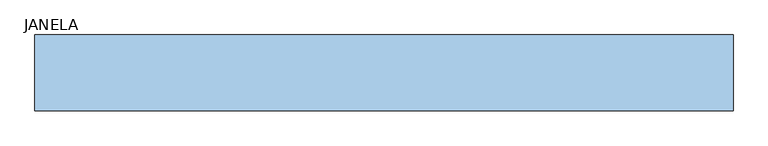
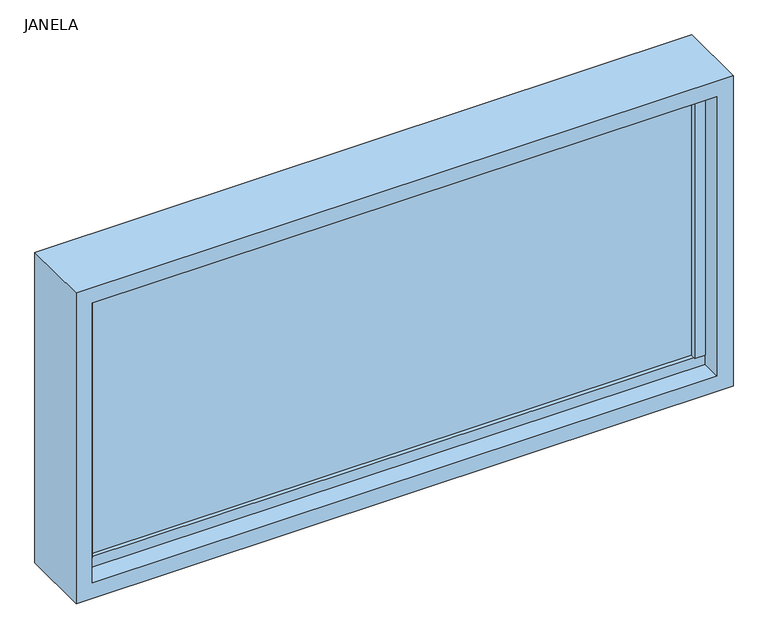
"""IFC4 building model written with IfcOpenShell, lengths in millimetres: window geometry, JANELA : bandeira 1,20 x 0.60."""

from ifc_helpers import new_model, si_unit, frame, origin, place, context, project, spatial, polyline, outline, extrude, source, transform, mapped, element, save


def janela_30db3b55(model_context):
    return source(origin(), model_context, "Body", "SweptSolid", [
        extrude(outline(polyline([(-550.0, 30.0), (-550.0, -30.0), (-570.0, -30.0), (-570.0, 30.0), (-550.0, 30.0)])), frame((0.0, 0.0, 1550.0), z_axis=(0.0, 0.0, 1.0), x_axis=(1.0, 0.0, 0.0)), (0.0, 0.0, 1.0), 500.0),
        extrude(outline(polyline([(570.0, 30.0), (570.0, -30.0), (550.0, -30.0), (550.0, 30.0), (570.0, 30.0)])), frame((0.0, 0.0, 1550.0), z_axis=(0.0, 0.0, 1.0), x_axis=(1.0, 0.0, 0.0)), (0.0, 0.0, 1.0), 500.0),
        extrude(outline(polyline([(570.0, 27.5), (570.0, -27.5), (-570.0, -27.5), (-570.0, 27.5), (570.0, 27.5)])), frame((0.0, 0.0, 2050.0), z_axis=(0.0, 0.0, 1.0), x_axis=(1.0, 0.0, 0.0)), (0.0, 0.0, 1.0), 20.0),
        extrude(outline(polyline([(570.0, 27.5), (570.0, -27.5), (-570.0, -27.5), (-570.0, 27.5), (570.0, 27.5)])), frame((0.0, 0.0, 1530.0), z_axis=(0.0, 0.0, 1.0), x_axis=(1.0, 0.0, 0.0)), (0.0, 0.0, 1.0), 20.0),
        extrude(outline(polyline([(550.0, -20.0), (-550.0, -20.0), (-550.0, -5.0), (550.0, -5.0), (550.0, -20.0)])), frame((0.0, 0.0, 1550.0), z_axis=(0.0, 0.0, 1.0), x_axis=(1.0, 0.0, 0.0)), (0.0, 0.0, 1.0), 500.0),
        extrude(outline(polyline([(2100.0, -600.0), (1500.0, -600.0), (1500.0, 600.0), (2100.0, 600.0), (2100.0, -600.0)]), holes=[polyline([(2070.0, 570.0), (1530.0, 570.0), (1530.0, -570.0), (2070.0, -570.0), (2070.0, 570.0)])]), frame((0.0, -65.0, 0.0), z_axis=(0.0, 1.0, 0.0), x_axis=(0.0, 0.0, 1.0)), (0.0, 0.0, 1.0), 130.0),
    ])


if __name__ == "__main__":
    model = new_model("IFC4")
    model_context = context("Model", 3, world=origin())
    ifc_project = project(units=[si_unit("LENGTHUNIT", "METRE", prefix="MILLI")], contexts=[model_context])
    site = spatial("IfcSite", under=ifc_project)
    building = spatial("IfcBuilding", under=site)
    placement = place(None, origin())
    janela_shape = janela_30db3b55(model_context)
    element("IfcWindow", 1, ObjectType="JANELA : bandeira 1,20 x 0.60", at=placement, inside=building, context=model_context, shape_type="MappedRepresentation", body=[
        mapped(janela_shape, transform((0.0, 0.0, 0.0), x_axis=(1.0, 0.0, 0.0), y_axis=(0.0, 1.0, 0.0), z_axis=(0.0, 0.0, 1.0))),
    ])
    save(model, "model.ifc")
